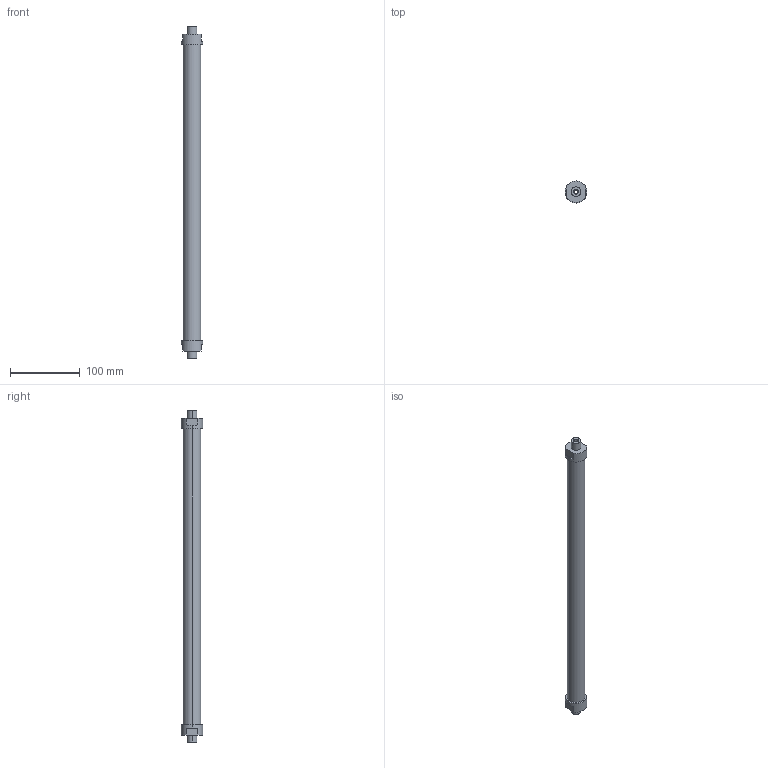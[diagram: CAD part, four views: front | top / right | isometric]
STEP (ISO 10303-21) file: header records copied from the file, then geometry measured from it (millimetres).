
FILE_DESCRIPTION(('STEP AP214'),'1');
FILE_NAME('ETT-R050G464.stp','2015-02-02T11:43:30',(' '),(' '),'Spatial InterOp 3D',' ',' ');
FILE_SCHEMA(('automotive_design'));
Length unit declared in the file: metre
Products named in the file (3): 1; 2; 3
Bounding box: 31 x 31 x 476 mm (x, y, z)
Volume: 219556.6 mm3; surface area: 48617.4 mm2
Topology: 1 solids, 7 shells, 32 faces, 86 edges, 66 vertices
Faces by surface type: cylinder 16, plane 16
Entity records: 1375 total; most frequent: DIRECTION 206, CARTESIAN_POINT 187, ORIENTED_EDGE 148, EDGE_CURVE 86, AXIS2_PLACEMENT_3D 85, VERTEX_POINT 66, CIRCLE 50, EDGE_LOOP 40
